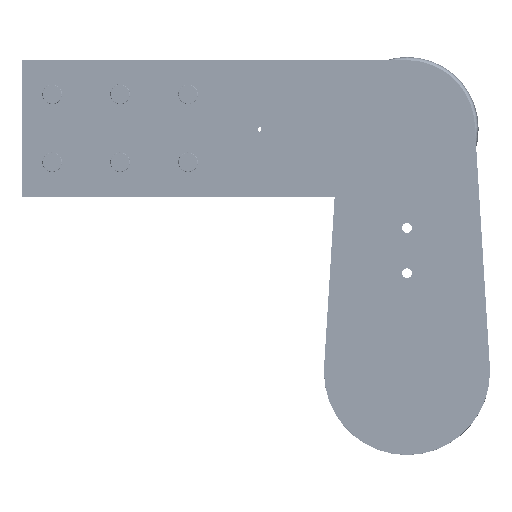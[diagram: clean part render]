
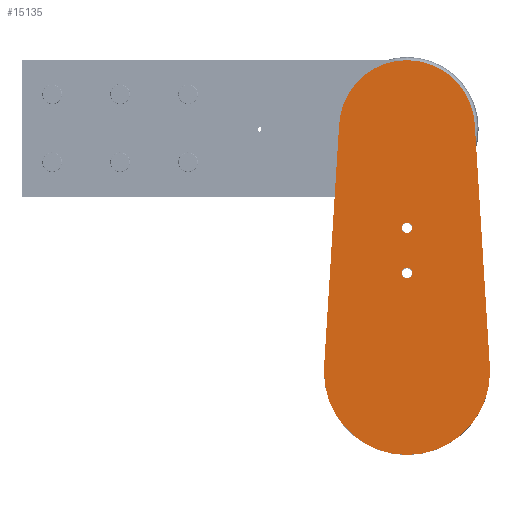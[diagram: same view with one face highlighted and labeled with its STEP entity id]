
A CAD part, top view. The second image highlights one B-rep face of the part: STEP entity #15135.
In plain terms, the highlighted planar face has unit normal (0, 0, 1) as drawn and (0, 0, -1) by its records, which use the part's own axes.
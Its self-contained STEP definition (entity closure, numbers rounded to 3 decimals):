
#1504 = ORIENTED_EDGE ( 'NONE', *, *, #68024, .F. ) ;
#1505 = ORIENTED_EDGE ( 'NONE', *, *, #68218, .F. ) ;
#1506 = ORIENTED_EDGE ( 'NONE', *, *, #68223, .F. ) ;
#1507 = ORIENTED_EDGE ( 'NONE', *, *, #68028, .F. ) ;
#1508 = ORIENTED_EDGE ( 'NONE', *, *, #68025, .F. ) ;
#1509 = ORIENTED_EDGE ( 'NONE', *, *, #68017, .F. ) ;
#1510 = ORIENTED_EDGE ( 'NONE', *, *, #68010, .F. ) ;
#1511 = ORIENTED_EDGE ( 'NONE', *, *, #68014, .F. ) ;
#1512 = ORIENTED_EDGE ( 'NONE', *, *, #68021, .F. ) ;
#1513 = ORIENTED_EDGE ( 'NONE', *, *, #68023, .F. ) ;
#5373 = CARTESIAN_POINT ( 'NONE',  ( 0., 0., 0. ) ) ;
#5374 = DIRECTION ( 'NONE',  ( 0., 0., 1. ) ) ;
#5375 = DIRECTION ( 'NONE',  ( 1., 0., 0. ) ) ;
#5383 = CARTESIAN_POINT ( 'NONE',  ( 0., 0., 0. ) ) ;
#5384 = DIRECTION ( 'NONE',  ( 0., 0., 1. ) ) ;
#5385 = DIRECTION ( 'NONE',  ( 1., 0., 0. ) ) ;
#5395 = CARTESIAN_POINT ( 'NONE',  ( 0., 161.5, 0. ) ) ;
#5396 = DIRECTION ( 'NONE',  ( 0., 0., 1. ) ) ;
#5397 = DIRECTION ( 'NONE',  ( 1., 0., 0. ) ) ;
#5404 = LINE ( 'NONE', #5405, #5760 ) ;
#5405 = CARTESIAN_POINT ( 'NONE',  ( -44.914, 164.286, 0. ) ) ;
#5406 = DIRECTION ( 'NONE',  ( -0.062, -0.998, 0. ) ) ;
#5410 = CARTESIAN_POINT ( 'NONE',  ( 44.914, 164.286, 0. ) ) ;
#5411 = CARTESIAN_POINT ( 'NONE',  ( 0., 0., 0. ) ) ;
#5412 = DIRECTION ( 'NONE',  ( 0., 0., 1. ) ) ;
#5413 = DIRECTION ( 'NONE',  ( 1., 0., 0. ) ) ;
#5415 = LINE ( 'NONE', #5410, #5762 ) ;
#5416 = CARTESIAN_POINT ( 'NONE',  ( 0., 95.5, 0. ) ) ;
#5417 = DIRECTION ( 'NONE',  ( 0., 0., -1. ) ) ;
#5418 = DIRECTION ( 'NONE',  ( 1., 0., 0. ) ) ;
#5419 = DIRECTION ( 'NONE',  ( -0.062, 0.998, 0. ) ) ;
#5426 = CARTESIAN_POINT ( 'NONE',  ( 0., 65.5, 0. ) ) ;
#5427 = DIRECTION ( 'NONE',  ( 0., 0., -1. ) ) ;
#5428 = DIRECTION ( 'NONE',  ( 1., 0., 0. ) ) ;
#5739 = CIRCLE ( 'NONE', #5744, 55. ) ;
#5744 = AXIS2_PLACEMENT_3D ( 'NONE', #5373, #5374, #5375 ) ;
#5747 = CIRCLE ( 'NONE', #5750, 55. ) ;
#5750 = AXIS2_PLACEMENT_3D ( 'NONE', #5383, #5384, #5385 ) ;
#5753 = CIRCLE ( 'NONE', #5756, 45. ) ;
#5756 = AXIS2_PLACEMENT_3D ( 'NONE', #5395, #5396, #5397 ) ;
#5757 = CIRCLE ( 'NONE', #5764, 55. ) ;
#5760 = VECTOR ( 'NONE', #5406, 1000. ) ;
#5762 = VECTOR ( 'NONE', #5419, 1000. ) ;
#5763 = CIRCLE ( 'NONE', #5766, 3.5 ) ;
#5764 = AXIS2_PLACEMENT_3D ( 'NONE', #5411, #5412, #5413 ) ;
#5766 = AXIS2_PLACEMENT_3D ( 'NONE', #5416, #5417, #5418 ) ;
#5769 = CIRCLE ( 'NONE', #5771, 3.5 ) ;
#5771 = AXIS2_PLACEMENT_3D ( 'NONE', #5426, #5427, #5428 ) ;
#6078 = CIRCLE ( 'NONE', #6080, 3.5 ) ;
#6080 = AXIS2_PLACEMENT_3D ( 'NONE', #7095, #7096, #7097 ) ;
#6085 = CIRCLE ( 'NONE', #6087, 3.5 ) ;
#6087 = AXIS2_PLACEMENT_3D ( 'NONE', #7107, #7108, #7109 ) ;
#7095 = CARTESIAN_POINT ( 'NONE',  ( 0., 95.5, 0. ) ) ;
#7096 = DIRECTION ( 'NONE',  ( 0., 0., -1. ) ) ;
#7097 = DIRECTION ( 'NONE',  ( 1., 0., 0. ) ) ;
#7107 = CARTESIAN_POINT ( 'NONE',  ( 0., 65.5, 0. ) ) ;
#7108 = DIRECTION ( 'NONE',  ( 0., 0., -1. ) ) ;
#7109 = DIRECTION ( 'NONE',  ( 1., 0., 0. ) ) ;
#7455 = EDGE_LOOP ( 'NONE', ( #1505, #1504 ) ) ;
#7464 = EDGE_LOOP ( 'NONE', ( #1509, #1508, #1510, #1511, #1513, #1512 ) ) ;
#7466 = EDGE_LOOP ( 'NONE', ( #1506, #1507 ) ) ;
#15135 = ADVANCED_FACE ( 'NONE', ( #43468, #43464, #43470 ), #43471, .F. ) ;
#35667 = VERTEX_POINT ( 'NONE', #43644 ) ;
#35672 = VERTEX_POINT ( 'NONE', #43646 ) ;
#35676 = VERTEX_POINT ( 'NONE', #43643 ) ;
#35678 = VERTEX_POINT ( 'NONE', #43648 ) ;
#35723 = VERTEX_POINT ( 'NONE', #43663 ) ;
#35724 = VERTEX_POINT ( 'NONE', #43669 ) ;
#35730 = VERTEX_POINT ( 'NONE', #43673 ) ;
#35734 = VERTEX_POINT ( 'NONE', #43668 ) ;
#35736 = VERTEX_POINT ( 'NONE', #43677 ) ;
#35739 = VERTEX_POINT ( 'NONE', #43671 ) ;
#43459 = DIRECTION ( 'NONE',  ( 0., 0., 1. ) ) ;
#43464 = FACE_BOUND ( 'NONE', #7466, .T. ) ;
#43467 = CARTESIAN_POINT ( 'NONE',  ( 0., 161.5, 0. ) ) ;
#43468 = FACE_BOUND ( 'NONE', #7455, .T. ) ;
#43470 = FACE_OUTER_BOUND ( 'NONE', #7464, .T. ) ;
#43471 = PLANE ( 'NONE',  #45076 ) ;
#43473 = DIRECTION ( 'NONE',  ( 1., 0., 0. ) ) ;
#43643 = CARTESIAN_POINT ( 'NONE',  ( -3.5, 95.5, 0. ) ) ;
#43644 = CARTESIAN_POINT ( 'NONE',  ( 3.5, 65.5, 0. ) ) ;
#43646 = CARTESIAN_POINT ( 'NONE',  ( 3.5, 95.5, 0. ) ) ;
#43648 = CARTESIAN_POINT ( 'NONE',  ( -3.5, 65.5, 0. ) ) ;
#43663 = CARTESIAN_POINT ( 'NONE',  ( 55., 0., 0. ) ) ;
#43668 = CARTESIAN_POINT ( 'NONE',  ( -44.914, 164.286, 0. ) ) ;
#43669 = CARTESIAN_POINT ( 'NONE',  ( 54.894, 3.406, 0. ) ) ;
#43671 = CARTESIAN_POINT ( 'NONE',  ( -54.894, 3.406, 0. ) ) ;
#43673 = CARTESIAN_POINT ( 'NONE',  ( -55., 0., 0. ) ) ;
#43677 = CARTESIAN_POINT ( 'NONE',  ( 44.914, 164.286, 0. ) ) ;
#45076 = AXIS2_PLACEMENT_3D ( 'NONE', #43467, #43459, #43473 ) ;
#68010 = EDGE_CURVE ( 'NONE', #35723, #35724, #5739, .T. ) ;
#68014 = EDGE_CURVE ( 'NONE', #35730, #35723, #5747, .T. ) ;
#68017 = EDGE_CURVE ( 'NONE', #35736, #35734, #5753, .T. ) ;
#68021 = EDGE_CURVE ( 'NONE', #35734, #35739, #5404, .T. ) ;
#68023 = EDGE_CURVE ( 'NONE', #35739, #35730, #5757, .T. ) ;
#68024 = EDGE_CURVE ( 'NONE', #35676, #35672, #5763, .T. ) ;
#68025 = EDGE_CURVE ( 'NONE', #35724, #35736, #5415, .T. ) ;
#68028 = EDGE_CURVE ( 'NONE', #35678, #35667, #5769, .T. ) ;
#68218 = EDGE_CURVE ( 'NONE', #35672, #35676, #6078, .T. ) ;
#68223 = EDGE_CURVE ( 'NONE', #35667, #35678, #6085, .T. ) ;
